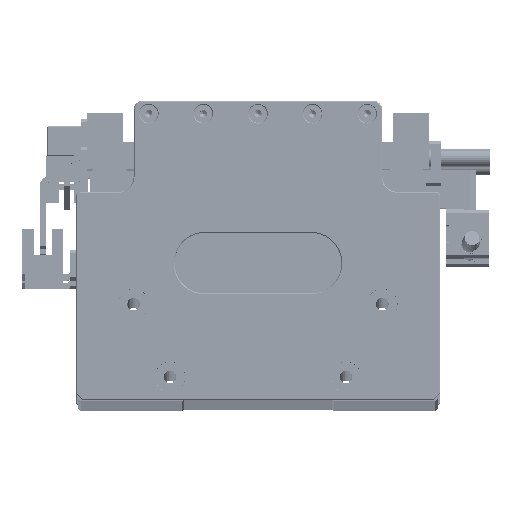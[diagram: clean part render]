
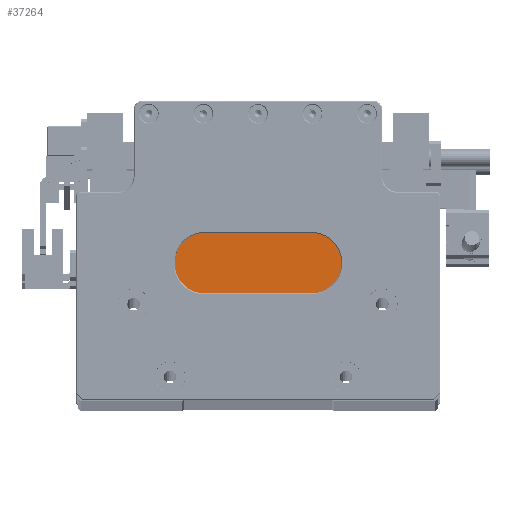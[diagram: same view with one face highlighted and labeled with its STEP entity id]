
A CAD part, top view. The second image highlights one B-rep face of the part: STEP entity #37264.
In plain terms, the highlighted planar face has unit normal (0, 0, 1).
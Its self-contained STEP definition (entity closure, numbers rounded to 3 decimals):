
#2051 = VERTEX_POINT ( 'NONE', #112587 ) ;
#2934 = EDGE_CURVE ( 'NONE', #19950, #104623, #49216, .T. ) ;
#2942 = ORIENTED_EDGE ( 'NONE', *, *, #67302, .T. ) ;
#3301 = CARTESIAN_POINT ( 'NONE',  ( 25.168, -49.223, 375. ) ) ;
#4638 = ORIENTED_EDGE ( 'NONE', *, *, #114846, .T. ) ;
#5101 = VECTOR ( 'NONE', #134821, 1000. ) ;
#6065 = AXIS2_PLACEMENT_3D ( 'NONE', #22640, #95343, #33064 ) ;
#7104 = CARTESIAN_POINT ( 'NONE',  ( -13.382, -17.023, 375. ) ) ;
#11290 = DIRECTION ( 'NONE',  ( 1., 0., 0. ) ) ;
#12798 = CARTESIAN_POINT ( 'NONE',  ( -23.132, -17.023, 375. ) ) ;
#14439 = EDGE_LOOP ( 'NONE', ( #66211, #2942, #113516, #80974, #56535, #4638, #82677, #74583 ) ) ;
#16497 = LINE ( 'NONE', #104918, #40872 ) ;
#17295 = VERTEX_POINT ( 'NONE', #108653 ) ;
#18972 = VERTEX_POINT ( 'NONE', #97737 ) ;
#19803 = CARTESIAN_POINT ( 'NONE',  ( 2.868, -17.023, 375. ) ) ;
#19950 = VERTEX_POINT ( 'NONE', #106958 ) ;
#21655 = VECTOR ( 'NONE', #114657, 1000. ) ;
#22640 = CARTESIAN_POINT ( 'NONE',  ( -4.632, -9.023, 375. ) ) ;
#24249 = EDGE_CURVE ( 'NONE', #134869, #18972, #24970, .T. ) ;
#24970 = CIRCLE ( 'NONE', #120352, 1.25 ) ;
#26865 = VERTEX_POINT ( 'NONE', #82944 ) ;
#29550 = LINE ( 'NONE', #62999, #53873 ) ;
#30204 = VERTEX_POINT ( 'NONE', #12798 ) ;
#30256 = DIRECTION ( 'NONE',  ( 1., 0., 0. ) ) ;
#30590 = AXIS2_PLACEMENT_3D ( 'NONE', #109546, #47197, #120000 ) ;
#33040 = VECTOR ( 'NONE', #48166, 1000. ) ;
#33064 = DIRECTION ( 'NONE',  ( 1., 0., 0. ) ) ;
#37264 = ADVANCED_FACE ( 'NONE', ( #38616, #93925, #69495 ), #63910, .T. ) ;
#37300 = ORIENTED_EDGE ( 'NONE', *, *, #24249, .T. ) ;
#38080 = DIRECTION ( 'NONE',  ( 0., 0., -1. ) ) ;
#38616 = FACE_OUTER_BOUND ( 'NONE', #14439, .T. ) ;
#39160 = DIRECTION ( 'NONE',  ( 0., -1., 0. ) ) ;
#40872 = VECTOR ( 'NONE', #115385, 1000. ) ;
#43858 = EDGE_CURVE ( 'NONE', #26865, #97084, #29550, .T. ) ;
#44906 = EDGE_CURVE ( 'NONE', #132409, #17295, #59139, .T. ) ;
#45712 = CIRCLE ( 'NONE', #30590, 1.25 ) ;
#46406 = AXIS2_PLACEMENT_3D ( 'NONE', #115807, #53471, #126320 ) ;
#46678 = EDGE_CURVE ( 'NONE', #30204, #66134, #112761, .T. ) ;
#47197 = DIRECTION ( 'NONE',  ( 0., 0., -1. ) ) ;
#48166 = DIRECTION ( 'NONE',  ( -1., 0., 0. ) ) ;
#48182 = CARTESIAN_POINT ( 'NONE',  ( -34.432, -17.023, 375. ) ) ;
#49064 = EDGE_CURVE ( 'NONE', #18972, #134869, #45712, .T. ) ;
#49216 = LINE ( 'NONE', #125615, #21655 ) ;
#49233 = VECTOR ( 'NONE', #60471, 1000. ) ;
#50070 = CARTESIAN_POINT ( 'NONE',  ( -4.632, -9.223, 375. ) ) ;
#53429 = CARTESIAN_POINT ( 'NONE',  ( 1.618, -17.023, 375. ) ) ;
#53471 = DIRECTION ( 'NONE',  ( 0., 0., -1. ) ) ;
#53873 = VECTOR ( 'NONE', #11290, 1000. ) ;
#56396 = EDGE_CURVE ( 'NONE', #66134, #26865, #71311, .T. ) ;
#56535 = ORIENTED_EDGE ( 'NONE', *, *, #43858, .T. ) ;
#59139 = CIRCLE ( 'NONE', #64154, 1.25 ) ;
#60471 = DIRECTION ( 'NONE',  ( -1., 0., 0. ) ) ;
#61925 = CARTESIAN_POINT ( 'NONE',  ( -4.632, -17.023, 375. ) ) ;
#62999 = CARTESIAN_POINT ( 'NONE',  ( -34.632, -49.223, 375. ) ) ;
#63910 = PLANE ( 'NONE',  #6065 ) ;
#64154 = AXIS2_PLACEMENT_3D ( 'NONE', #19803, #92485, #30256 ) ;
#65769 = EDGE_CURVE ( 'NONE', #2051, #19950, #112441, .T. ) ;
#66134 = VERTEX_POINT ( 'NONE', #48182 ) ;
#66211 = ORIENTED_EDGE ( 'NONE', *, *, #95241, .T. ) ;
#67302 = EDGE_CURVE ( 'NONE', #89573, #30204, #103931, .T. ) ;
#68038 = VECTOR ( 'NONE', #39160, 1000. ) ;
#69495 = FACE_BOUND ( 'NONE', #134661, .T. ) ;
#69733 = ORIENTED_EDGE ( 'NONE', *, *, #44906, .T. ) ;
#71311 = LINE ( 'NONE', #111925, #68038 ) ;
#71942 = CARTESIAN_POINT ( 'NONE',  ( -23.132, -9.023, 375. ) ) ;
#74583 = ORIENTED_EDGE ( 'NONE', *, *, #2934, .T. ) ;
#80974 = ORIENTED_EDGE ( 'NONE', *, *, #56396, .T. ) ;
#81136 = CARTESIAN_POINT ( 'NONE',  ( -23.132, -9.223, 375. ) ) ;
#82403 = DIRECTION ( 'NONE',  ( 0., -1., 0. ) ) ;
#82677 = ORIENTED_EDGE ( 'NONE', *, *, #65769, .T. ) ;
#82944 = CARTESIAN_POINT ( 'NONE',  ( -34.432, -49.223, 375. ) ) ;
#89573 = VERTEX_POINT ( 'NONE', #81136 ) ;
#92485 = DIRECTION ( 'NONE',  ( 0., 0., -1. ) ) ;
#93925 = FACE_BOUND ( 'NONE', #100853, .T. ) ;
#95241 = EDGE_CURVE ( 'NONE', #104623, #89573, #111154, .T. ) ;
#95343 = DIRECTION ( 'NONE',  ( 0., 0., 1. ) ) ;
#97084 = VERTEX_POINT ( 'NONE', #3301 ) ;
#97737 = CARTESIAN_POINT ( 'NONE',  ( -10.882, -17.023, 375. ) ) ;
#100382 = CARTESIAN_POINT ( 'NONE',  ( -12.132, -17.023, 375. ) ) ;
#100669 = VECTOR ( 'NONE', #82403, 1000. ) ;
#100853 = EDGE_LOOP ( 'NONE', ( #102260, #69733 ) ) ;
#102260 = ORIENTED_EDGE ( 'NONE', *, *, #134577, .T. ) ;
#103931 = LINE ( 'NONE', #71942, #100669 ) ;
#104623 = VERTEX_POINT ( 'NONE', #119049 ) ;
#104918 = CARTESIAN_POINT ( 'NONE',  ( 25.168, -9.023, 375. ) ) ;
#106958 = CARTESIAN_POINT ( 'NONE',  ( 13.868, -17.023, 375. ) ) ;
#108653 = CARTESIAN_POINT ( 'NONE',  ( 4.118, -17.023, 375. ) ) ;
#109546 = CARTESIAN_POINT ( 'NONE',  ( -12.132, -17.023, 375. ) ) ;
#110559 = CARTESIAN_POINT ( 'NONE',  ( -4.632, -17.023, 375. ) ) ;
#110858 = DIRECTION ( 'NONE',  ( 1., 0., 0. ) ) ;
#111154 = LINE ( 'NONE', #50070, #49233 ) ;
#111925 = CARTESIAN_POINT ( 'NONE',  ( -34.432, -9.023, 375. ) ) ;
#112441 = LINE ( 'NONE', #61925, #5101 ) ;
#112587 = CARTESIAN_POINT ( 'NONE',  ( 25.168, -17.023, 375. ) ) ;
#112740 = CIRCLE ( 'NONE', #46406, 1.25 ) ;
#112761 = LINE ( 'NONE', #110559, #33040 ) ;
#113516 = ORIENTED_EDGE ( 'NONE', *, *, #46678, .T. ) ;
#114657 = DIRECTION ( 'NONE',  ( 0., 1., 0. ) ) ;
#114846 = EDGE_CURVE ( 'NONE', #97084, #2051, #16497, .T. ) ;
#115385 = DIRECTION ( 'NONE',  ( 0., 1., 0. ) ) ;
#115807 = CARTESIAN_POINT ( 'NONE',  ( 2.868, -17.023, 375. ) ) ;
#119049 = CARTESIAN_POINT ( 'NONE',  ( 13.868, -9.223, 375. ) ) ;
#120000 = DIRECTION ( 'NONE',  ( 1., 0., 0. ) ) ;
#120352 = AXIS2_PLACEMENT_3D ( 'NONE', #100382, #38080, #110858 ) ;
#125155 = ORIENTED_EDGE ( 'NONE', *, *, #49064, .T. ) ;
#125615 = CARTESIAN_POINT ( 'NONE',  ( 13.868, -9.023, 375. ) ) ;
#126320 = DIRECTION ( 'NONE',  ( 1., 0., 0. ) ) ;
#132409 = VERTEX_POINT ( 'NONE', #53429 ) ;
#134577 = EDGE_CURVE ( 'NONE', #17295, #132409, #112740, .T. ) ;
#134661 = EDGE_LOOP ( 'NONE', ( #125155, #37300 ) ) ;
#134821 = DIRECTION ( 'NONE',  ( -1., 0., 0. ) ) ;
#134869 = VERTEX_POINT ( 'NONE', #7104 ) ;
